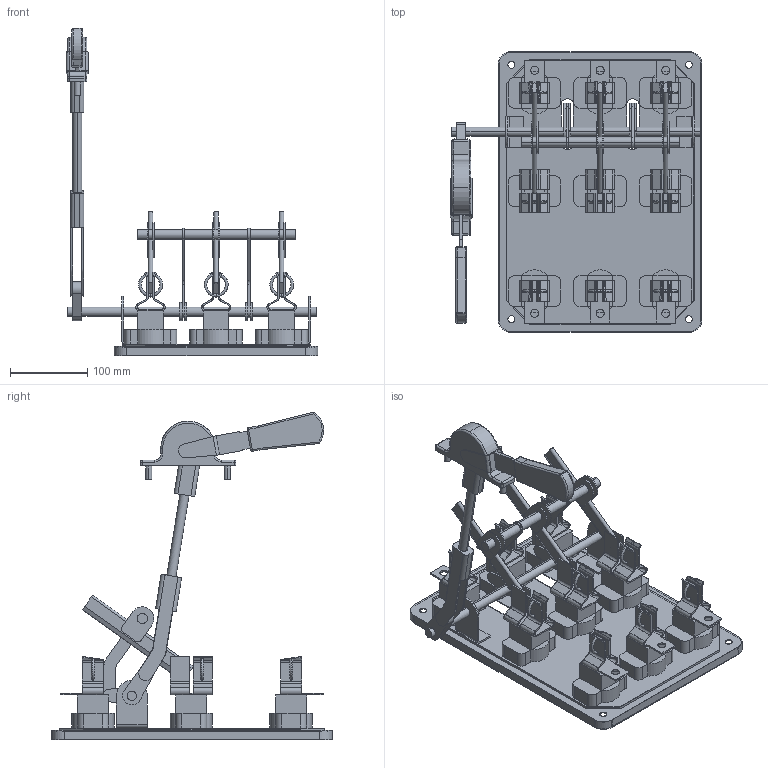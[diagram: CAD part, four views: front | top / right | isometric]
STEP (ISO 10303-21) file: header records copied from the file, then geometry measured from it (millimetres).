
FILE_DESCRIPTION (( 'STEP AP214' ), '1' );
FILE_NAME ('Ðàçúåäèíèòåëü ÐÏÑ-2Ë-250À-áåçÏÂ-Ó3-ÊÝÀÇ.STEP', '2023-05-01T20:13:45', ( '' ), ( '' ), 'SwSTEP 2.0', 'SolidWorks 2018', '' );
FILE_SCHEMA (( 'AUTOMOTIVE_DESIGN' ));
Length unit declared in the file: millimetre
Products named in the file (1): Ðàçúåäèíèòåëü ÐÏÑ-2Ë-250À-áåçÏÂ-Ó3-ÊÝÀÇ
Bounding box: 326.5 x 364 x 424.53 mm (x, y, z)
Volume: 1613778.8 mm3; surface area: 550529.2 mm2
Topology: 9 solids, 9 shells, 1125 faces, 3102 edges, 2005 vertices
Faces by surface type: plane 616, cylinder 411, torus 84, sphere 14
Entity records: 50440 total; most frequent: CARTESIAN_POINT 8579, ORIENTED_EDGE 6188, DIRECTION 6179, EDGE_CURVE 3094, AXIS2_PLACEMENT_3D 2115, VERTEX_POINT 2003, LINE 1949, VECTOR 1949
